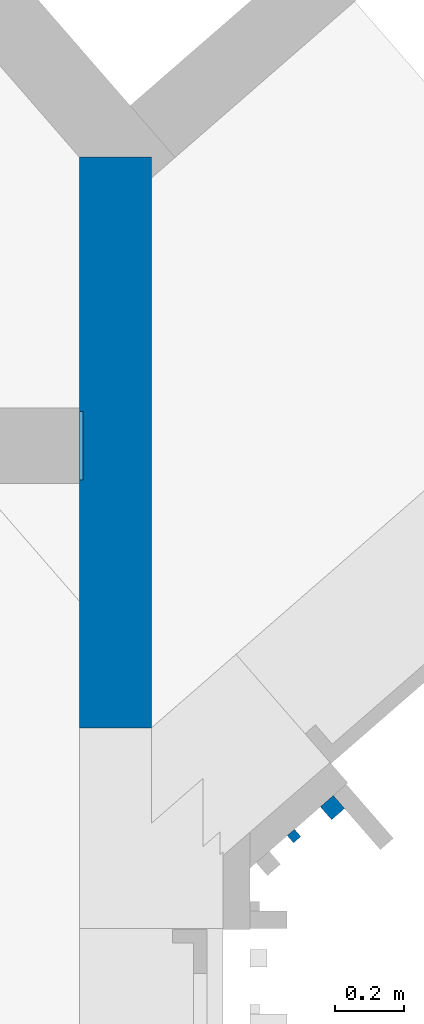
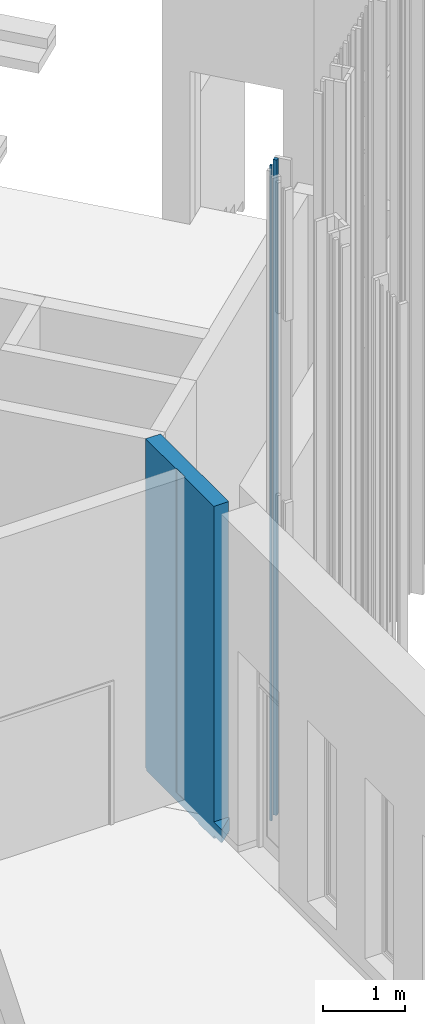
# One storey, part 195 of 390: 3 walls.
"""IFC2X3 building model written with IfcOpenShell, lengths in millimetres."""

from ifc_helpers import new_model, entity, si_unit, converted_unit, derived_unit, money_unit, direction, frame, origin_with_axes, place, context, subcontext, project, spatial, faceted_brep, material, material_list, type_object, element, save


model = new_model("IFC2X3")

# Units and contexts
model_context = context("Model", 3, precision=1e-05, world=origin_with_axes(), true_north=direction((0.0, 1.0)))
body_context = subcontext(model_context, "Body", "Model", "MODEL_VIEW")
ifc_project = project(units=[si_unit("LENGTHUNIT", "METRE", prefix="MILLI"), si_unit("AREAUNIT", "SQUARE_METRE"), si_unit("VOLUMEUNIT", "CUBIC_METRE"), converted_unit("PLANEANGLEUNIT", "DEGREE", entity("IfcPlaneAngleMeasure", 0.0174532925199), si_unit("PLANEANGLEUNIT", "RADIAN"), dimensions=[0, 0, 0, 0, 0, 0, 0]), si_unit("SOLIDANGLEUNIT", "STERADIAN"), money_unit("EUR"), converted_unit("TIMEUNIT", "Year", entity("IfcTimeMeasure", 31556926.0), si_unit("TIMEUNIT", "SECOND"), dimensions=[0, 0, 1, 0, 0, 0, 0]), si_unit("MASSUNIT", "GRAM", prefix="KILO"), si_unit("THERMODYNAMICTEMPERATUREUNIT", "DEGREE_CELSIUS"), si_unit("LUMINOUSINTENSITYUNIT", "LUMEN"), si_unit("ENERGYUNIT", "JOULE", prefix="MEGA"), derived_unit("THERMALCONDUCTANCEUNIT", [(si_unit("POWERUNIT", "WATT"), 1), (si_unit("LENGTHUNIT", "METRE"), -1), (si_unit("THERMODYNAMICTEMPERATUREUNIT", "KELVIN"), -1)]), derived_unit("SPECIFICHEATCAPACITYUNIT", [(si_unit("ENERGYUNIT", "JOULE"), 1), (si_unit("MASSUNIT", "GRAM", prefix="KILO"), -1), (si_unit("THERMODYNAMICTEMPERATUREUNIT", "KELVIN"), -1)]), derived_unit("MASSDENSITYUNIT", [(si_unit("MASSUNIT", "GRAM", prefix="KILO"), 1), (si_unit("VOLUMEUNIT", "CUBIC_METRE"), -1)])], contexts=[model_context])

# Site, building, storey
site_placement = place(None, origin_with_axes())
site = spatial("IfcSite", under=ifc_project, at=site_placement, Name="Site", CompositionType="ELEMENT")
building_placement = place(site_placement, origin_with_axes())
building = spatial("IfcBuilding", under=site, at=building_placement, Name="Building", CompositionType="ELEMENT")
storey_placement = place(building_placement, origin_with_axes())
storey = spatial("IfcBuildingStorey", under=building, at=storey_placement, Name="1 korrus", CompositionType="ELEMENT", Elevation=0.0)

# Walls
ifc_material_1 = material(Name="Krohv - Lubjakivi")
ifc_material_2 = material(Name="Raudbetoon - Konstruktsioon")
ifc_material_list = material_list([ifc_material_1, ifc_material_2])
wall_type_1 = type_object("IfcWallType", Name="SS-10", PredefinedType="NOTDEFINED")
wall_1_placement = place(storey_placement, frame((139499.999815, 66587.7734355, -150.0), z_axis=(0.0, 0.0, 1.0), x_axis=(-9.68678263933e-07, 1.0, 0.0)))
element("IfcWall", 1, at=wall_1_placement, inside=storey, type_object=wall_type_1, material=ifc_material_list, Name="SS-11", context=body_context, shape_type="Brep", body=[
    faceted_brep([(357.717216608, 200.0, 50.0), (1664.17405232, 200.0, 50.0), (1664.17405232, 200.0, 4950.0), (922.40173535, 200.000011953, 4950.0), (922.40173535, 200.000026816, 130.0), (722.40173535, 200.000026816, 130.0), (722.40173535, 200.000015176, 4950.0), (0.0, 200.000026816, 4950.0), (0.0, 200.000026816, 250.000000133), (-173.856817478, 200.000026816, 250.000000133), (-173.856794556, 200.000000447, 50.0), (0.0, 200.000000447, 50.0000008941), (0.0, 200.000000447, 0.0), (357.717216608, 200.0, 0.0), (1664.17405232, 210.0, 50.0), (369.22047839, 209.999613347, 50.0), (1664.17405232, 210.0, 4950.0), (922.401745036, 209.999990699, 4950.0), (922.401745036, 209.999979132, 130.0), (722.401745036, 209.999979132, 130.0), (722.401745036, 209.999988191, 4950.0), (0.0, 209.999979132, 4950.0), (0.0, 209.999979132, 250.000000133), (-182.549297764, 209.999613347, 250.000000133), (-182.549297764, 209.999613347, 50.0), (0.0, 210.0, 50.0000008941), (0.0, 210.0, 0.0), (369.220923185, 210.0, 0.0)], [[[0, 1, 2, 3, 4, 5, 6, 7, 8, 9, 10, 11, 12, 13]], [[14, 1, 0, 15]], [[1, 14, 16, 2]], [[16, 17, 3, 2]], [[18, 4, 3, 17]], [[19, 5, 4, 18]], [[19, 20, 6, 5]], [[7, 6, 20, 21]], [[21, 22, 8, 7]], [[22, 23, 9, 8]], [[24, 10, 9, 23]], [[11, 10, 24, 25]], [[25, 26, 12, 11]], [[27, 13, 12, 26]], [[15, 0, 13, 27]], [[15, 27, 26, 25, 24, 23, 22, 21, 20, 19, 18, 17, 16, 14]]]),
    faceted_brep([(-187.106929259, 200.000026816, 250.000000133), (-13.2501117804, 0.0, 250.000000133), (0.0, 0.0, 250.000000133), (0.0, 200.000026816, 250.000000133), (-13.2501117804, 0.0, 50.0), (-187.106906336, 200.000000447, 50.0), (0.0, 0.0, 50.0000008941), (0.0, 0.0, 0.0), (1664.17405232, 0.0, 0.0), (1664.17405232, 0.0, 4950.0), (0.0, 0.0, 4950.0), (0.0, 200.000026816, 4950.0), (1664.17405232, 200.0, 4950.0), (1664.17405232, 200.0, 0.0), (0.0, 200.000000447, 0.0), (0.0, 200.000000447, 50.0000008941)], [[[0, 1, 2, 3]], [[4, 1, 0, 5]], [[1, 4, 6, 7, 8, 9, 10, 2]], [[3, 2, 10, 11]], [[5, 0, 3, 11, 12, 13, 14, 15]], [[4, 5, 15, 6]], [[14, 7, 6, 15]], [[8, 7, 14, 13]], [[9, 8, 13, 12]], [[12, 11, 10, 9]]]),
])
ifc_material_3 = material(Name="Site specified")
wall_type_2 = type_object("IfcWallType", Name="Puitfassaadi ribistik", PredefinedType="NOTDEFINED")
wall_2_placement = place(storey_placement, frame((139915.804782, 66272.1453023, 100.0), z_axis=(0.0, 0.0, 1.0), x_axis=(-0.754709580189, -0.65605902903, 0.0)))
element("IfcWall", 2, at=wall_2_placement, inside=storey, type_object=wall_type_2, material=ifc_material_3, Name="Site specified", context=body_context, shape_type="Brep", body=[
    faceted_brep([(-14.0, -14.0, 9765.0), (-14.0, -14.0, 0.0), (14.0, -14.0, 0.0), (14.0, -14.0, 9765.0), (-14.0, 14.0, 9765.0), (-14.0, 14.0, 0.0), (14.0, 14.0, 0.0), (14.0, 14.0, 9765.0)], [[[0, 1, 2, 3]], [[4, 5, 1, 0]], [[2, 1, 5, 6]], [[3, 2, 6, 7]], [[4, 0, 3, 7]], [[7, 6, 5, 4]]]),
])
wall_3_placement = place(storey_placement, frame((140027.926063, 66355.0357019, 100.0), z_axis=(0.0, 0.0, 1.0), x_axis=(-0.754709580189, -0.65605902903, 0.0)))
element("IfcWall", 3, at=wall_3_placement, inside=storey, type_object=wall_type_2, material=ifc_material_3, Name="Site specified", context=body_context, shape_type="Brep", body=[
    faceted_brep([(-25.0, -25.0, 9765.0), (-25.0, -25.0, 0.0), (25.0, -25.0, 0.0), (25.0, -25.0, 9765.0), (-25.0, 25.0, 9765.0), (-25.0, 25.0, 0.0), (25.0, 25.0, 0.0), (25.0, 25.0, 9765.0)], [[[0, 1, 2, 3]], [[4, 5, 1, 0]], [[2, 1, 5, 6]], [[3, 2, 6, 7]], [[4, 0, 3, 7]], [[7, 6, 5, 4]]]),
])

save(model, "model.ifc")
